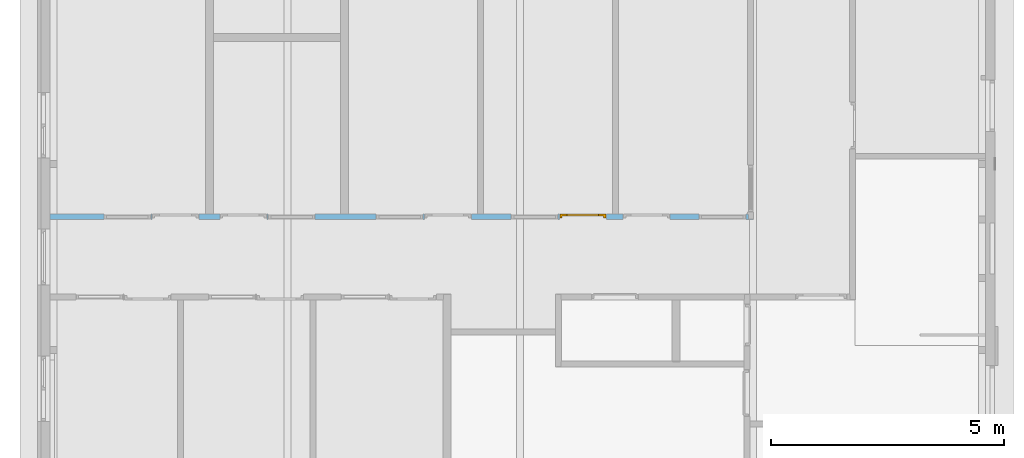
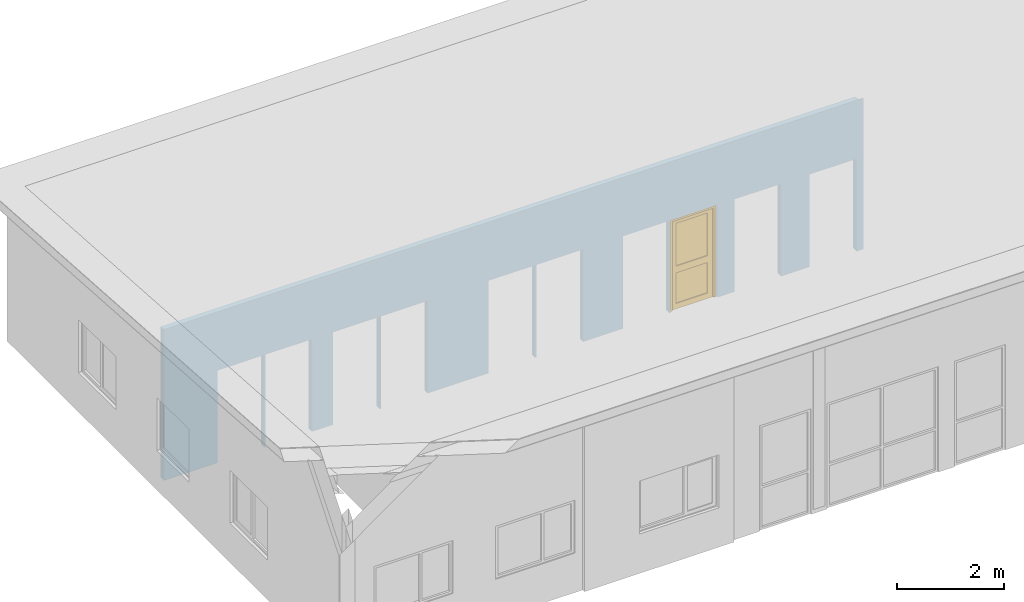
# One storey, part 21 of 37: 1 door, 10 openings, plus 1 element that does not belong to this part.
"""IFC2X3 building model written with IfcOpenShell, lengths in millimetres."""

from ifc_helpers import new_model, entity, si_unit, converted_unit, frame, frame_2d, origin, origin_with_axes, place, context, subcontext, project, spatial, polyline, rectangle, outline, extrude, clip, halfspace, faceted_brep, material, layer, layer_set, layer_usage, type_object, element, fill, save


model = new_model("IFC2X3")

# Units and contexts
model_context = context("Model", 3, precision=1e-05, world=origin())
plan_context = context("Plan", 3, precision=1e-05, world=origin())
body_context = subcontext(model_context, "Body", "Model", "MODEL_VIEW")
ifc_project = project(units=[si_unit("LENGTHUNIT", "METRE", prefix="MILLI"), converted_unit("PLANEANGLEUNIT", "DEGREE", entity("IfcPlaneAngleMeasure", 0.0174532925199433), si_unit("PLANEANGLEUNIT", "RADIAN"), dimensions=[0, 0, 0, 0, 0, 0, 0]), si_unit("AREAUNIT", "SQUARE_METRE"), si_unit("VOLUMEUNIT", "CUBIC_METRE")], contexts=[model_context, plan_context])

# Building, storey
building_placement = place(None, origin())
building = spatial("IfcBuilding", under=ifc_project, at=building_placement, Name="HEKF Administrasjonbygg", CompositionType="ELEMENT")
storey_placement = place(building_placement, frame((0.0, 0.0, 9900.0), z_axis=(0.0, 0.0, 1.0), x_axis=(1.0, 0.0, 0.0)))
storey = spatial("IfcBuildingStorey", under=building, at=storey_placement, Name="Plan 2", CompositionType="ELEMENT", Elevation=9900.0)

# Wall, openings, door
ifc_material_1 = material(Name="gips")
ifc_layer_1 = layer(ifc_material_1, 13.0)
ifc_material_2 = material(Name="riegel stål 100")
ifc_layer_2 = layer(ifc_material_2, 100.0)
ifc_material_3 = material(Name="gips")
ifc_layer_3 = layer(ifc_material_3, 13.0)
ifc_layer_set = layer_set([ifc_layer_1, ifc_layer_2, ifc_layer_3])
ifc_layer_usage = layer_usage(ifc_layer_set, "AXIS2", "POSITIVE", 0.0)
wall_placement = place(storey_placement, frame((24887.0, -5075.0, 0.0), z_axis=(0.0, 0.0, 1.0), x_axis=(-1.0, 0.0, 0.0)))
wall = element("IfcWallStandardCase", 1, at=wall_placement, inside=storey, material=ifc_layer_usage, context=body_context, shape_type="Clipping", body=[
    clip(extrude(outline(polyline([(-113.0, 126.0), (-113.0, 113.0), (-13.0, 113.0), (-13.0, 13.0), (0.0, 13.0), (0.0, 0.0), (2774.0, 0.0), (2774.0, 13.0), (2787.0, 13.0), (2787.0, 0.0), (14987.00000000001, 0.0), (14987.00000000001, 126.0), (-113.0, 126.0)])), origin_with_axes(), (0.0, 0.0, 1.0), 3446.733333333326), halfspace(frame((2787.0, 0.0, 3438.333333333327), z_axis=(-9.402241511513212e-18, 0.06651901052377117, -0.9977851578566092), x_axis=(1.0, 0.0, 0.0)), True)),
])
opening_1_placement = place(wall_placement, frame((9293.284477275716, 0.0, 0.0), z_axis=(0.0, 1.0, 0.0), x_axis=(0.0, 0.0, 1.0)))
element("IfcOpeningElement", 2, at=opening_1_placement, cuts=wall, Name="Window opening", ObjectType="Opening", context=body_context, shape_type="SweptSolid", body=[
    extrude(rectangle(XDim=2110.0, YDim=1010.0, at=frame_2d((1055.0, 505.0), x_axis=(1.0, 0.0))), origin_with_axes(), (0.0, 0.0, 1.0), 126.0),
])
opening_2_placement = place(wall_placement, frame((6972.0, 0.0, 0.0), z_axis=(0.0, 1.0, 0.0), x_axis=(0.0, 0.0, 1.0)))
element("IfcOpeningElement", 3, at=opening_2_placement, cuts=wall, Name="Window opening", ObjectType="Opening", context=body_context, shape_type="SweptSolid", body=[
    extrude(rectangle(XDim=2110.0, YDim=1010.0, at=frame_2d((1055.0, 505.0), x_axis=(1.0, 0.0))), origin_with_axes(), (0.0, 0.0, 1.0), 126.0),
])
opening_3_placement = place(wall_placement, frame((12823.28447727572, 0.0, 0.0), z_axis=(0.0, 1.0, 0.0), x_axis=(0.0, 0.0, 1.0)))
element("IfcOpeningElement", 4, at=opening_3_placement, cuts=wall, Name="Window opening", ObjectType="Opening", context=body_context, shape_type="SweptSolid", body=[
    extrude(rectangle(XDim=2110.0, YDim=1010.0, at=frame_2d((1055.0, 505.0), x_axis=(1.0, 0.0))), origin_with_axes(), (0.0, 0.0, 1.0), 126.0),
])
opening_4_placement = place(wall_placement, frame((4072.0, 0.0, 0.0), z_axis=(0.0, 1.0, 0.0), x_axis=(0.0, 0.0, 1.0)))
element("IfcOpeningElement", 5, at=opening_4_placement, cuts=wall, Name="Window opening", ObjectType="Opening", context=body_context, shape_type="SweptSolid", body=[
    extrude(rectangle(XDim=2110.0, YDim=1010.0, at=frame_2d((1055.0, 505.0), x_axis=(1.0, 0.0))), origin_with_axes(), (0.0, 0.0, 1.0), 126.0),
])
opening_5_placement = place(wall_placement, frame((37.0, 0.0, 0.0), z_axis=(0.0, 1.0, 0.0), x_axis=(0.0, 0.0, 1.0)))
element("IfcOpeningElement", 6, at=opening_5_placement, cuts=wall, Name="Window opening", ObjectType="Opening", context=body_context, shape_type="SweptSolid", body=[
    extrude(rectangle(XDim=2110.0, YDim=1010.0, at=frame_2d((1055.0, 505.0), x_axis=(1.0, 0.0))), origin_with_axes(), (0.0, 0.0, 1.0), 126.0),
])
opening_6_placement = place(wall_placement, frame((11788.28447727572, 0.0, 0.0), z_axis=(0.0, 1.0, 0.0), x_axis=(0.0, 0.0, 1.0)))
element("IfcOpeningElement", 7, at=opening_6_placement, cuts=wall, Name="garasjeport med glassfelter:45x6", ObjectType="Opening", context=body_context, shape_type="SweptSolid", body=[
    extrude(rectangle(XDim=2110.0, YDim=1010.0, at=frame_2d((1055.0, 505.0), x_axis=(1.0, 0.0))), origin_with_axes(), (0.0, 0.0, 1.0), 126.0),
])
opening_7_placement = place(wall_placement, frame((10328.28447727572, 0.0, 0.0), z_axis=(0.0, 1.0, 0.0), x_axis=(0.0, 0.0, 1.0)))
element("IfcOpeningElement", 8, at=opening_7_placement, cuts=wall, Name="garasjeport med glassfelter:45x6", ObjectType="Opening", context=body_context, shape_type="SweptSolid", body=[
    extrude(rectangle(XDim=2110.0, YDim=1010.0, at=frame_2d((1055.0, 505.0), x_axis=(1.0, 0.0))), origin_with_axes(), (0.0, 0.0, 1.0), 126.0),
])
opening_8_placement = place(wall_placement, frame((5937.0, 0.0, 0.0), z_axis=(0.0, 1.0, 0.0), x_axis=(0.0, 0.0, 1.0)))
element("IfcOpeningElement", 9, at=opening_8_placement, cuts=wall, Name="garasjeport med glassfelter:45x6", ObjectType="Opening", context=body_context, shape_type="SweptSolid", body=[
    extrude(rectangle(XDim=2110.0, YDim=1010.0, at=frame_2d((1055.0, 505.0), x_axis=(1.0, 0.0))), origin_with_axes(), (0.0, 0.0, 1.0), 126.0),
])
opening_9_placement = place(wall_placement, frame((3037.0, 0.0, 0.0), z_axis=(0.0, 1.0, 0.0), x_axis=(0.0, 0.0, 1.0)))
opening_9 = element("IfcOpeningElement", 10, at=opening_9_placement, cuts=wall, Name="garasjeport med glassfelter:45x6", ObjectType="Opening", context=body_context, shape_type="SweptSolid", body=[
    extrude(rectangle(XDim=2110.0, YDim=1010.0, at=frame_2d((1055.0, 505.0), x_axis=(1.0, 0.0))), origin_with_axes(), (0.0, 0.0, 1.0), 126.0),
])
opening_10_placement = place(wall_placement, frame((1664.0, 0.0, 0.0), z_axis=(0.0, 1.0, 0.0), x_axis=(0.0, 0.0, 1.0)))
element("IfcOpeningElement", 11, at=opening_10_placement, cuts=wall, Name="garasjeport med glassfelter:45x6", ObjectType="Opening", context=body_context, shape_type="SweptSolid", body=[
    extrude(rectangle(XDim=2110.0, YDim=1010.0, at=frame_2d((1055.0, 505.0), x_axis=(1.0, 0.0))), origin_with_axes(), (0.0, 0.0, 1.0), 126.0),
])
ifc_material_4 = material()
door_style = type_object("IfcDoorStyle", Name="D108", ConstructionType="NOTDEFINED", OperationType="USERDEFINED", ParameterTakesPrecedence=False, Sizeable=False)
door_placement = place(opening_9_placement, frame((0.0, 0.0, 0.0), z_axis=(1.0, 0.0, 0.0), x_axis=(0.0, 1.0, 0.0)))
door = element("IfcDoor", 12, at=door_placement, inside=storey, type_object=door_style, material=ifc_material_4, Name="D108", OverallHeight=2110.0, OverallWidth=1010.0, context=body_context, shape_type="Brep", body=[
    faceted_brep([(9.999999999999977, 0.9999999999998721, 2090.0), (59.99999999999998, 0.9999999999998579, 2090.0), (59.99999999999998, 0.9999999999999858, -2.816687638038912e-15), (9.999999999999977, 1.0, -2.816687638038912e-15), (10.0, 93.0, 2.816687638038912e-15), (60.0, 92.99999999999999, 2.816687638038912e-15), (60.0, 92.99999999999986, 2090.0), (10.0, 92.99999999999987, 2090.0), (9.999999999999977, 1.0, -2.816687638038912e-15), (10.0, 93.0, 2.816687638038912e-15), (10.0, 92.99999999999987, 2090.0), (9.999999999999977, 0.9999999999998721, 2090.0), (59.99999999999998, 0.9999999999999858, -2.816687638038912e-15), (60.0, 92.99999999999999, 2.816687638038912e-15), (10.0, 93.0, 2.816687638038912e-15), (9.999999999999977, 1.0, -2.816687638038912e-15), (59.99999999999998, 0.9999999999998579, 2090.0), (60.0, 92.99999999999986, 2090.0), (60.0, 92.99999999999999, 2.816687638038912e-15), (59.99999999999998, 0.9999999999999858, -2.816687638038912e-15), (9.999999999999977, 0.9999999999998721, 2090.0), (10.0, 92.99999999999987, 2090.0), (60.0, 92.99999999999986, 2090.0), (59.99999999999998, 0.9999999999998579, 2090.0)], [[[0, 1, 2, 3]], [[4, 5, 6, 7]], [[8, 9, 10, 11]], [[12, 13, 14, 15]], [[16, 17, 18, 19]], [[20, 21, 22, 23]]], orient=[[False], [False], [False], [False], [False], [False]]),
    faceted_brep([(950.0, 0.9999999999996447, 2090.0), (1000.0, 0.9999999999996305, 2090.0), (1000.0, 0.9999999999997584, -2.816687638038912e-15), (950.0, 0.9999999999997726, -2.816687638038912e-15), (950.0, 92.99999999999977, 2.816687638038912e-15), (1000.0, 92.99999999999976, 2.816687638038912e-15), (1000.0, 92.99999999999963, 2090.0), (950.0, 92.99999999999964, 2090.0), (950.0, 0.9999999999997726, -2.816687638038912e-15), (950.0, 92.99999999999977, 2.816687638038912e-15), (950.0, 92.99999999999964, 2090.0), (950.0, 0.9999999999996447, 2090.0), (1000.0, 0.9999999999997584, -2.816687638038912e-15), (1000.0, 92.99999999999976, 2.816687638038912e-15), (950.0, 92.99999999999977, 2.816687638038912e-15), (950.0, 0.9999999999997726, -2.816687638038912e-15), (1000.0, 0.9999999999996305, 2090.0), (1000.0, 92.99999999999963, 2090.0), (1000.0, 92.99999999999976, 2.816687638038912e-15), (1000.0, 0.9999999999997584, -2.816687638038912e-15), (950.0, 0.9999999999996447, 2090.0), (950.0, 92.99999999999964, 2090.0), (1000.0, 92.99999999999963, 2090.0), (1000.0, 0.9999999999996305, 2090.0)], [[[0, 1, 2, 3]], [[4, 5, 6, 7]], [[8, 9, 10, 11]], [[12, 13, 14, 15]], [[16, 17, 18, 19]], [[20, 21, 22, 23]]], orient=[[False], [False], [False], [False], [False], [False]]),
    faceted_brep([(59.99999999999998, 0.9999999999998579, 2090.0), (949.9999999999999, 0.9999999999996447, 2090.0), (949.9999999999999, 0.9999999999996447, 2040.0), (59.99999999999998, 0.9999999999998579, 2040.0), (60.0, 92.99999999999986, 2040.0), (949.9999999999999, 92.99999999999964, 2040.0), (949.9999999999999, 92.99999999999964, 2090.0), (60.0, 92.99999999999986, 2090.0), (59.99999999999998, 0.9999999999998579, 2040.0), (60.0, 92.99999999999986, 2040.0), (60.0, 92.99999999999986, 2090.0), (59.99999999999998, 0.9999999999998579, 2090.0), (949.9999999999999, 0.9999999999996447, 2040.0), (949.9999999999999, 92.99999999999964, 2040.0), (60.0, 92.99999999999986, 2040.0), (59.99999999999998, 0.9999999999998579, 2040.0), (949.9999999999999, 0.9999999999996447, 2090.0), (949.9999999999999, 92.99999999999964, 2090.0), (949.9999999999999, 92.99999999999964, 2040.0), (949.9999999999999, 0.9999999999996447, 2040.0), (59.99999999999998, 0.9999999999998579, 2090.0), (60.0, 92.99999999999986, 2090.0), (949.9999999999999, 92.99999999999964, 2090.0), (949.9999999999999, 0.9999999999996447, 2090.0)], [[[0, 1, 2, 3]], [[4, 5, 6, 7]], [[8, 9, 10, 11]], [[12, 13, 14, 15]], [[16, 17, 18, 19]], [[20, 21, 22, 23]]], orient=[[False], [False], [False], [False], [False], [False]]),
    faceted_brep([(39.99999999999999, 0.9999999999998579, 2060.0), (165.0, 0.9999999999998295, 2060.0), (165.0, 0.9999999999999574, -20.0), (39.99999999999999, 0.9999999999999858, -20.0), (39.99999999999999, 40.99999999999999, -20.0), (165.0, 40.99999999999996, -20.0), (165.0, 40.99999999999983, 2060.0), (39.99999999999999, 40.99999999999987, 2060.0), (39.99999999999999, 0.9999999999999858, -20.0), (39.99999999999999, 40.99999999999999, -20.0), (39.99999999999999, 40.99999999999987, 2060.0), (39.99999999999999, 0.9999999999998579, 2060.0), (165.0, 0.9999999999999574, -20.0), (165.0, 40.99999999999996, -20.0), (39.99999999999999, 40.99999999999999, -20.0), (39.99999999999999, 0.9999999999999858, -20.0), (165.0, 0.9999999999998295, 2060.0), (165.0, 40.99999999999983, 2060.0), (165.0, 40.99999999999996, -20.0), (165.0, 0.9999999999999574, -20.0), (39.99999999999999, 0.9999999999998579, 2060.0), (39.99999999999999, 40.99999999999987, 2060.0), (165.0, 40.99999999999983, 2060.0), (165.0, 0.9999999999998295, 2060.0)], [[[0, 1, 2, 3]], [[4, 5, 6, 7]], [[8, 9, 10, 11]], [[12, 13, 14, 15]], [[16, 17, 18, 19]], [[20, 21, 22, 23]]], orient=[[False], [False], [False], [False], [False], [False]]),
    faceted_brep([(844.9999999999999, 0.9999999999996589, 2060.0), (969.9999999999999, 0.9999999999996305, 2060.0), (969.9999999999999, 0.9999999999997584, -20.0), (844.9999999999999, 0.9999999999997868, -20.0), (844.9999999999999, 40.99999999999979, -20.0), (969.9999999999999, 40.99999999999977, -20.0), (969.9999999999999, 40.99999999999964, 2060.0), (844.9999999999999, 40.99999999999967, 2060.0), (844.9999999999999, 0.9999999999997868, -20.0), (844.9999999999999, 40.99999999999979, -20.0), (844.9999999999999, 40.99999999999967, 2060.0), (844.9999999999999, 0.9999999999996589, 2060.0), (969.9999999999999, 0.9999999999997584, -20.0), (969.9999999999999, 40.99999999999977, -20.0), (844.9999999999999, 40.99999999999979, -20.0), (844.9999999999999, 0.9999999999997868, -20.0), (969.9999999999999, 0.9999999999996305, 2060.0), (969.9999999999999, 40.99999999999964, 2060.0), (969.9999999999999, 40.99999999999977, -20.0), (969.9999999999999, 0.9999999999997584, -20.0), (844.9999999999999, 0.9999999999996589, 2060.0), (844.9999999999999, 40.99999999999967, 2060.0), (969.9999999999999, 40.99999999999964, 2060.0), (969.9999999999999, 0.9999999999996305, 2060.0)], [[[0, 1, 2, 3]], [[4, 5, 6, 7]], [[8, 9, 10, 11]], [[12, 13, 14, 15]], [[16, 17, 18, 19]], [[20, 21, 22, 23]]], orient=[[False], [False], [False], [False], [False], [False]]),
    faceted_brep([(165.0, 0.9999999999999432, 105.0), (844.9999999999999, 0.9999999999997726, 105.0), (844.9999999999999, 0.9999999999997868, -20.0), (165.0, 0.9999999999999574, -20.0), (165.0, 40.99999999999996, -20.0), (844.9999999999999, 40.99999999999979, -20.0), (844.9999999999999, 40.99999999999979, 105.0), (165.0, 40.99999999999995, 105.0), (165.0, 0.9999999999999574, -20.0), (165.0, 40.99999999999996, -20.0), (165.0, 40.99999999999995, 105.0), (165.0, 0.9999999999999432, 105.0), (844.9999999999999, 0.9999999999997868, -20.0), (844.9999999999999, 40.99999999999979, -20.0), (165.0, 40.99999999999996, -20.0), (165.0, 0.9999999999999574, -20.0), (844.9999999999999, 0.9999999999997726, 105.0), (844.9999999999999, 40.99999999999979, 105.0), (844.9999999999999, 40.99999999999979, -20.0), (844.9999999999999, 0.9999999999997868, -20.0), (165.0, 0.9999999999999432, 105.0), (165.0, 40.99999999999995, 105.0), (844.9999999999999, 40.99999999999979, 105.0), (844.9999999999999, 0.9999999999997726, 105.0)], [[[0, 1, 2, 3]], [[4, 5, 6, 7]], [[8, 9, 10, 11]], [[12, 13, 14, 15]], [[16, 17, 18, 19]], [[20, 21, 22, 23]]], orient=[[False], [False], [False], [False], [False], [False]]),
    faceted_brep([(165.0, 0.9999999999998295, 2060.0), (844.9999999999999, 0.9999999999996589, 2060.0), (844.9999999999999, 0.9999999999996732, 1935.0), (165.0, 0.9999999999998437, 1935.0), (165.0, 40.99999999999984, 1935.0), (844.9999999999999, 40.99999999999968, 1935.0), (844.9999999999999, 40.99999999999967, 2060.0), (165.0, 40.99999999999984, 2060.0), (165.0, 0.9999999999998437, 1935.0), (165.0, 40.99999999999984, 1935.0), (165.0, 40.99999999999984, 2060.0), (165.0, 0.9999999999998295, 2060.0), (844.9999999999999, 0.9999999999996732, 1935.0), (844.9999999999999, 40.99999999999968, 1935.0), (165.0, 40.99999999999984, 1935.0), (165.0, 0.9999999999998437, 1935.0), (844.9999999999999, 0.9999999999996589, 2060.0), (844.9999999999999, 40.99999999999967, 2060.0), (844.9999999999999, 40.99999999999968, 1935.0), (844.9999999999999, 0.9999999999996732, 1935.0), (165.0, 0.9999999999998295, 2060.0), (165.0, 40.99999999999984, 2060.0), (844.9999999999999, 40.99999999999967, 2060.0), (844.9999999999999, 0.9999999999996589, 2060.0)], [[[0, 1, 2, 3]], [[4, 5, 6, 7]], [[8, 9, 10, 11]], [[12, 13, 14, 15]], [[16, 17, 18, 19]], [[20, 21, 22, 23]]], orient=[[False], [False], [False], [False], [False], [False]]),
    faceted_brep([(165.0, 0.9999999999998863, 955.0), (844.9999999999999, 0.9999999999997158, 955.0), (844.9999999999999, 0.99999999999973, 805.0), (165.0, 0.9999999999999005, 805.0), (165.0, 40.9999999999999, 805.0), (844.9999999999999, 40.99999999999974, 805.0), (844.9999999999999, 40.99999999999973, 955.0), (165.0, 40.99999999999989, 955.0), (165.0, 0.9999999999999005, 805.0), (165.0, 40.9999999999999, 805.0), (165.0, 40.99999999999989, 955.0), (165.0, 0.9999999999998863, 955.0), (844.9999999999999, 0.99999999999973, 805.0), (844.9999999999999, 40.99999999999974, 805.0), (165.0, 40.9999999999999, 805.0), (165.0, 0.9999999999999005, 805.0), (844.9999999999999, 0.9999999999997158, 955.0), (844.9999999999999, 40.99999999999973, 955.0), (844.9999999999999, 40.99999999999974, 805.0), (844.9999999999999, 0.99999999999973, 805.0), (165.0, 0.9999999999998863, 955.0), (165.0, 40.99999999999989, 955.0), (844.9999999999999, 40.99999999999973, 955.0), (844.9999999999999, 0.9999999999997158, 955.0)], [[[0, 1, 2, 3]], [[4, 5, 6, 7]], [[8, 9, 10, 11]], [[12, 13, 14, 15]], [[16, 17, 18, 19]], [[20, 21, 22, 23]]], orient=[[False], [False], [False], [False], [False], [False]]),
    faceted_brep([(165.0, 20.99999999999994, 105.0), (165.0, 20.9999999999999, 805.0), (844.9999999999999, 20.99999999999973, 805.0), (844.9999999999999, 20.99999999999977, 105.0), (165.0, 21.99999999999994, 105.0), (844.9999999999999, 21.99999999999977, 105.0), (844.9999999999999, 21.99999999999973, 805.0), (165.0, 21.9999999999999, 805.0), (165.0, 20.99999999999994, 105.0), (165.0, 21.99999999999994, 105.0), (165.0, 21.9999999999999, 805.0), (165.0, 20.9999999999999, 805.0), (165.0, 20.9999999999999, 805.0), (165.0, 21.9999999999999, 805.0), (844.9999999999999, 21.99999999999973, 805.0), (844.9999999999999, 20.99999999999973, 805.0), (844.9999999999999, 20.99999999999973, 805.0), (844.9999999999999, 21.99999999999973, 805.0), (844.9999999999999, 21.99999999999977, 105.0), (844.9999999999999, 20.99999999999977, 105.0), (844.9999999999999, 20.99999999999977, 105.0), (844.9999999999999, 21.99999999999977, 105.0), (165.0, 21.99999999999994, 105.0), (165.0, 20.99999999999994, 105.0)], [[[0, 1, 2, 3]], [[4, 5, 6, 7]], [[8, 9, 10, 11]], [[12, 13, 14, 15]], [[16, 17, 18, 19]], [[20, 21, 22, 23]]], orient=[[False], [False], [False], [False], [False], [False]]),
    faceted_brep([(165.0, 20.9999999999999, 955.0), (165.0, 20.99999999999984, 1935.0), (844.9999999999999, 20.99999999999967, 1935.0), (844.9999999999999, 20.99999999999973, 955.0), (165.0, 21.9999999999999, 955.0), (844.9999999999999, 21.99999999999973, 955.0), (844.9999999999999, 21.99999999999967, 1935.0), (165.0, 21.99999999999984, 1935.0), (165.0, 20.9999999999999, 955.0), (165.0, 21.9999999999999, 955.0), (165.0, 21.99999999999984, 1935.0), (165.0, 20.99999999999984, 1935.0), (165.0, 20.99999999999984, 1935.0), (165.0, 21.99999999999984, 1935.0), (844.9999999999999, 21.99999999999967, 1935.0), (844.9999999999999, 20.99999999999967, 1935.0), (844.9999999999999, 20.99999999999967, 1935.0), (844.9999999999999, 21.99999999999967, 1935.0), (844.9999999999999, 21.99999999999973, 955.0), (844.9999999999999, 20.99999999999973, 955.0), (844.9999999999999, 20.99999999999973, 955.0), (844.9999999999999, 21.99999999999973, 955.0), (165.0, 21.9999999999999, 955.0), (165.0, 20.9999999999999, 955.0)], [[[0, 1, 2, 3]], [[4, 5, 6, 7]], [[8, 9, 10, 11]], [[12, 13, 14, 15]], [[16, 17, 18, 19]], [[20, 21, 22, 23]]], orient=[[False], [False], [False], [False], [False], [False]]),
])
fill(opening_9, door)

save(model, "model.ifc")
